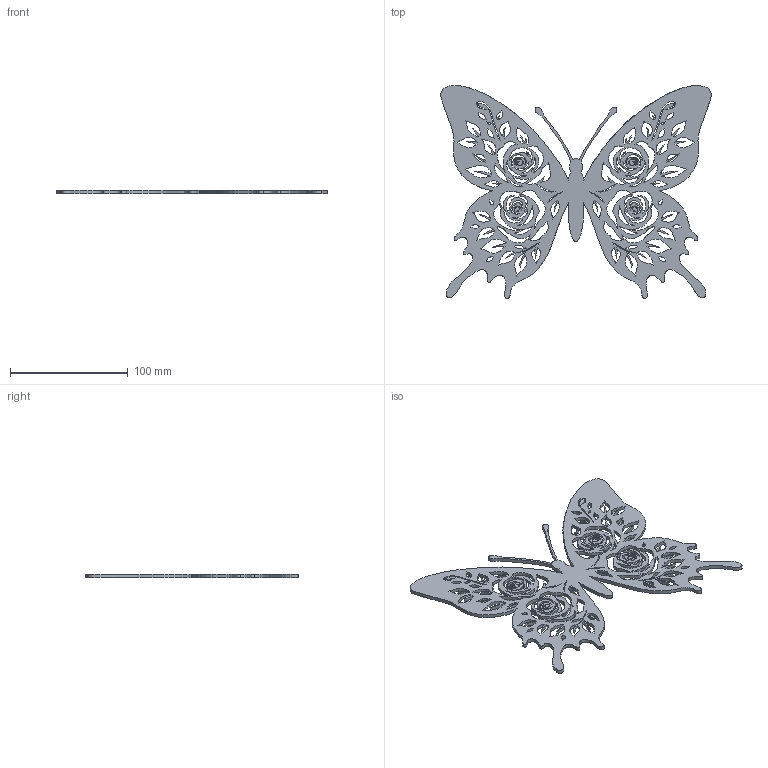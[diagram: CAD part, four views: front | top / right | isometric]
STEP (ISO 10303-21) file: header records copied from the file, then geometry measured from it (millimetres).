
FILE_DESCRIPTION(('STEP AP214'),'1');
FILE_NAME('3.stp','2026-06-27T09:35:39',(' '),(' '),'Spatial InterOp 3D',' ',' ');
FILE_SCHEMA(('AUTOMOTIVE_DESIGN { 1 0 10303 214 1 1 1 1 }'));
Length unit declared in the file: metre
Products named in the file (1): 1782562397
Bounding box: 229.22 x 180.47 x 3 mm (x, y, z)
Volume: 54627.5 mm3; surface area: 57613.4 mm2
Topology: 1 solids, 1 shells, 325 faces, 969 edges, 646 vertices
Faces by surface type: extrusion 321, plane 2, cylinder 2
Entity records: 20566 total; most frequent: CARTESIAN_POINT 10098, ORIENTED_EDGE 1938, EDGE_CURVE 969, B_SPLINE_CURVE_WITH_KNOTS 936, DIRECTION 662, VERTEX_POINT 646, VECTOR 644, EDGE_LOOP 529
